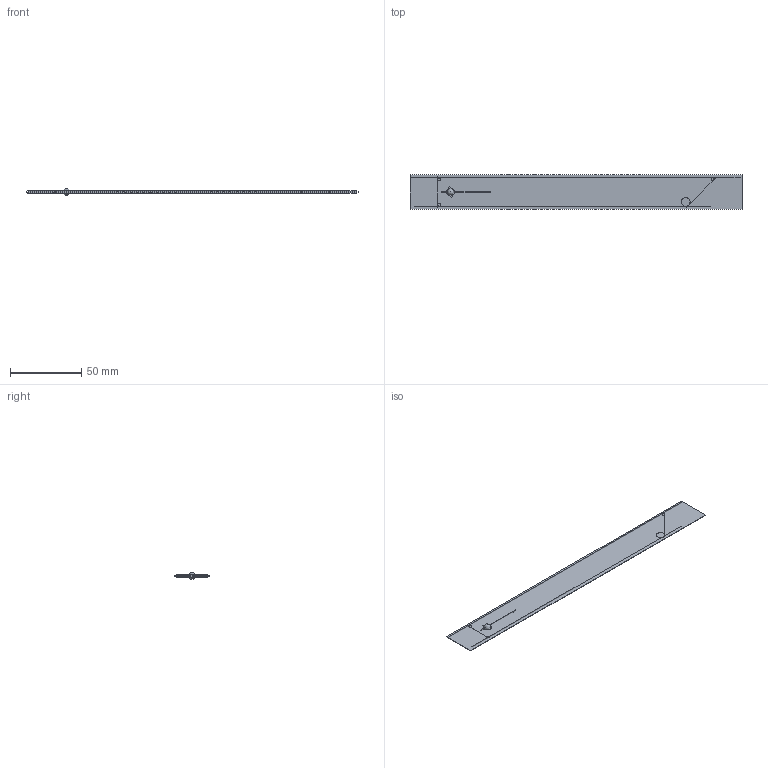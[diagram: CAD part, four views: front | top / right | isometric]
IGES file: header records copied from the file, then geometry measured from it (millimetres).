
Global section: file name: C:\Users\utente\Desktop\3d sito\ELLICE\ELLICE.igs; native system: Rhinoceros ( Mar  9 2011 ); preprocessor: Trout Lake IGES 012 Mar  9 2011; date: 170519.104304; units: millimetre
Bounding box: 232.52 x 24 x 4.8 mm (x, y, z)
Surface area: 12250.8 mm2 (no closed solid volume)
Topology: 0 solids, 0 shells, 26 faces, 92 edges, 80 vertices
Faces by surface type: bspline 26
